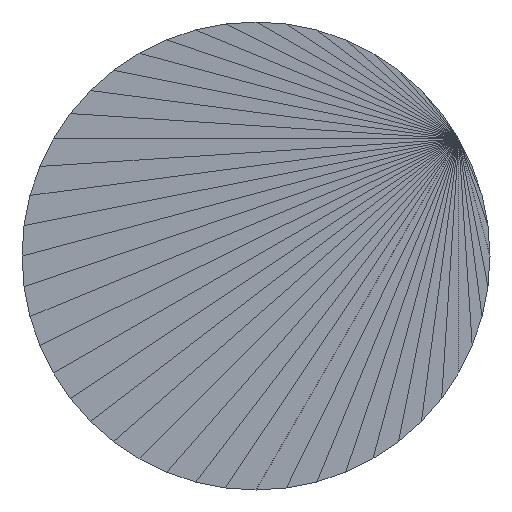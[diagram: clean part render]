
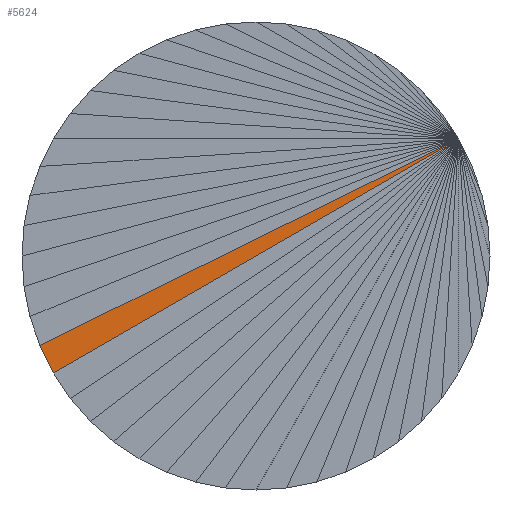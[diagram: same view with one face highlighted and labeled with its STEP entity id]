
A CAD part, front view. The second image highlights one B-rep face of the part: STEP entity #5624.
In plain terms, the highlighted planar face has unit normal (0, -1, 0).
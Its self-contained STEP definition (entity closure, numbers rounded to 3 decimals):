
#1623 = VERTEX_POINT('',#1624);
#1624 = CARTESIAN_POINT('',(-820.555,-56.,397.));
#3978 = VERTEX_POINT('',#3979);
#3979 = CARTESIAN_POINT('',(-881.412,-56.,366.989));
#4018 = PLANE('',#4019);
#4019 = AXIS2_PLACEMENT_3D('',#4020,#4021,#4022);
#4020 = CARTESIAN_POINT('',(-852.32,-56.,382.6));
#4021 = DIRECTION('',(-0.,-1.,-0.));
#4022 = DIRECTION('',(0.,0.,-1.));
#4259 = VERTEX_POINT('',#4260);
#4260 = CARTESIAN_POINT('',(-879.445,-56.,363.));
#4267 = PLANE('',#4268);
#4268 = AXIS2_PLACEMENT_3D('',#4269,#4270,#4271);
#4269 = CARTESIAN_POINT('',(-879.946,-1.09,
    364.017));
#4270 = DIRECTION('',(-0.897,-0.,-0.442));
#4271 = DIRECTION('',(0.442,0.,-0.897));
#4290 = EDGE_CURVE('',#4259,#3978,#4291,.T.);
#4291 = SURFACE_CURVE('',#4292,(#4296,#4303),.PCURVE_S1.);
#4292 = LINE('',#4293,#4294);
#4293 = CARTESIAN_POINT('',(-879.445,-56.,363.));
#4294 = VECTOR('',#4295,1.);
#4295 = DIRECTION('',(-0.442,0.,0.897));
#4296 = PCURVE('',#4267,#4297);
#4297 = DEFINITIONAL_REPRESENTATION('',(#4298),#4302);
#4298 = LINE('',#4299,#4300);
#4299 = CARTESIAN_POINT('',(1.134,54.91));
#4300 = VECTOR('',#4301,1.);
#4301 = DIRECTION('',(-1.,0.));
#4302 = ( GEOMETRIC_REPRESENTATION_CONTEXT(2) 
PARAMETRIC_REPRESENTATION_CONTEXT() REPRESENTATION_CONTEXT('2D SPACE',''
  ) );
#4303 = PCURVE('',#4304,#4309);
#4304 = PLANE('',#4305);
#4305 = AXIS2_PLACEMENT_3D('',#4306,#4307,#4308);
#4306 = CARTESIAN_POINT('',(-851.44,-56.,380.489));
#4307 = DIRECTION('',(-0.,-1.,-0.));
#4308 = DIRECTION('',(0.,0.,-1.));
#4309 = DEFINITIONAL_REPRESENTATION('',(#4310),#4313);
#4310 = B_SPLINE_CURVE_WITH_KNOTS('',1,(#4311,#4312),.UNSPECIFIED.,.F.,
  .F.,(2,2),(0.,4.447),.PIECEWISE_BEZIER_KNOTS.);
#4311 = CARTESIAN_POINT('',(17.489,-28.005));
#4312 = CARTESIAN_POINT('',(13.5,-29.972));
#4313 = ( GEOMETRIC_REPRESENTATION_CONTEXT(2) 
PARAMETRIC_REPRESENTATION_CONTEXT() REPRESENTATION_CONTEXT('2D SPACE',''
  ) );
#4402 = PLANE('',#4403);
#4403 = AXIS2_PLACEMENT_3D('',#4404,#4405,#4406);
#4404 = CARTESIAN_POINT('',(-850.297,-56.,378.508));
#4405 = DIRECTION('',(-0.,-1.,-0.));
#4406 = DIRECTION('',(0.,0.,-1.));
#5624 = ADVANCED_FACE('',(#5625),#4304,.T.);
#5625 = FACE_BOUND('',#5626,.T.);
#5626 = EDGE_LOOP('',(#5627,#5647,#5648));
#5627 = ORIENTED_EDGE('',*,*,#5628,.T.);
#5628 = EDGE_CURVE('',#1623,#3978,#5629,.T.);
#5629 = SURFACE_CURVE('',#5630,(#5634,#5641),.PCURVE_S1.);
#5630 = LINE('',#5631,#5632);
#5631 = CARTESIAN_POINT('',(-820.555,-56.,397.));
#5632 = VECTOR('',#5633,1.);
#5633 = DIRECTION('',(-0.897,0.,-0.442));
#5634 = PCURVE('',#4304,#5635);
#5635 = DEFINITIONAL_REPRESENTATION('',(#5636),#5640);
#5636 = LINE('',#5637,#5638);
#5637 = CARTESIAN_POINT('',(-16.511,30.885));
#5638 = VECTOR('',#5639,1.);
#5639 = DIRECTION('',(0.442,-0.897));
#5640 = ( GEOMETRIC_REPRESENTATION_CONTEXT(2) 
PARAMETRIC_REPRESENTATION_CONTEXT() REPRESENTATION_CONTEXT('2D SPACE',''
  ) );
#5641 = PCURVE('',#4018,#5642);
#5642 = DEFINITIONAL_REPRESENTATION('',(#5643),#5646);
#5643 = B_SPLINE_CURVE_WITH_KNOTS('',1,(#5644,#5645),.UNSPECIFIED.,.F.,
  .F.,(2,2),(0.,67.854),.PIECEWISE_BEZIER_KNOTS.);
#5644 = CARTESIAN_POINT('',(-14.4,31.765));
#5645 = CARTESIAN_POINT('',(15.611,-29.092));
#5646 = ( GEOMETRIC_REPRESENTATION_CONTEXT(2) 
PARAMETRIC_REPRESENTATION_CONTEXT() REPRESENTATION_CONTEXT('2D SPACE',''
  ) );
#5647 = ORIENTED_EDGE('',*,*,#4290,.F.);
#5648 = ORIENTED_EDGE('',*,*,#5649,.T.);
#5649 = EDGE_CURVE('',#4259,#1623,#5650,.T.);
#5650 = SURFACE_CURVE('',#5651,(#5655,#5662),.PCURVE_S1.);
#5651 = LINE('',#5652,#5653);
#5652 = CARTESIAN_POINT('',(-879.445,-56.,363.));
#5653 = VECTOR('',#5654,1.);
#5654 = DIRECTION('',(0.866,0.,0.5));
#5655 = PCURVE('',#4304,#5656);
#5656 = DEFINITIONAL_REPRESENTATION('',(#5657),#5661);
#5657 = LINE('',#5658,#5659);
#5658 = CARTESIAN_POINT('',(17.489,-28.005));
#5659 = VECTOR('',#5660,1.);
#5660 = DIRECTION('',(-0.5,0.866));
#5661 = ( GEOMETRIC_REPRESENTATION_CONTEXT(2) 
PARAMETRIC_REPRESENTATION_CONTEXT() REPRESENTATION_CONTEXT('2D SPACE',''
  ) );
#5662 = PCURVE('',#4402,#5663);
#5663 = DEFINITIONAL_REPRESENTATION('',(#5664),#5667);
#5664 = B_SPLINE_CURVE_WITH_KNOTS('',1,(#5665,#5666),.UNSPECIFIED.,.F.,
  .F.,(2,2),(0.,68.),.PIECEWISE_BEZIER_KNOTS.);
#5665 = CARTESIAN_POINT('',(15.508,-29.148));
#5666 = CARTESIAN_POINT('',(-18.492,29.742));
#5667 = ( GEOMETRIC_REPRESENTATION_CONTEXT(2) 
PARAMETRIC_REPRESENTATION_CONTEXT() REPRESENTATION_CONTEXT('2D SPACE',''
  ) );
